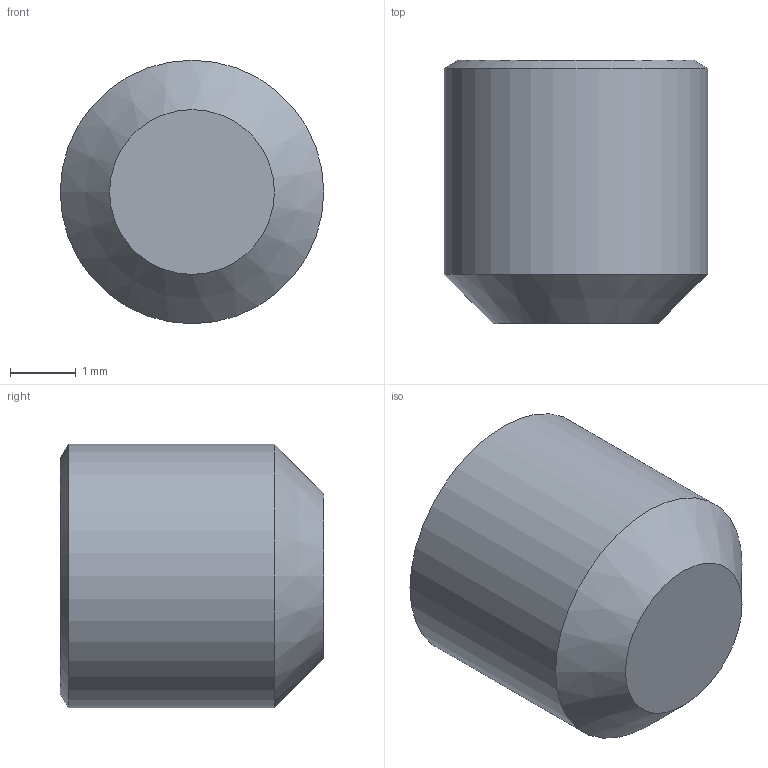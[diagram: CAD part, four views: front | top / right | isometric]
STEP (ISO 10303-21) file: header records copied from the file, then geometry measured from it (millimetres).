
FILE_DESCRIPTION(/* description */ (''),/* implementation_level */ '2;1');
FILE_NAME(/* name */ 'C:\Users\D\Documents\Inventor\各種小物\JIS\止めねじ\平先\M4\M4x4.stp',/* time_stamp */ '2022-06-23T14:24:18+09:00',/* author */ ('D'),/* organization */ (''),/* preprocessor_version */ 'ST-DEVELOPER v18',/* originating_system */ 'Autodesk Inventor 2020',/* authorisation */ '');
FILE_SCHEMA (('AUTOMOTIVE_DESIGN { 1 0 10303 214 3 1 1 }'));
Length unit declared in the file: millimetre
Products named in the file (1): M1.6x2
Bounding box: 4 x 4 x 4 mm (x, y, z)
Volume: 40.9 mm3; surface area: 79.3 mm2
Topology: 1 solids, 1 shells, 12 faces, 28 edges, 18 vertices
Faces by surface type: plane 8, cone 3, cylinder 1
Full cylindrical faces by diameter (mm): 4 x1
Entity records: 369 total; most frequent: CARTESIAN_POINT 72, ORIENTED_EDGE 54, DIRECTION 50, EDGE_CURVE 27, VERTEX_POINT 18, AXIS2_PLACEMENT_3D 17, LINE 16, VECTOR 16
